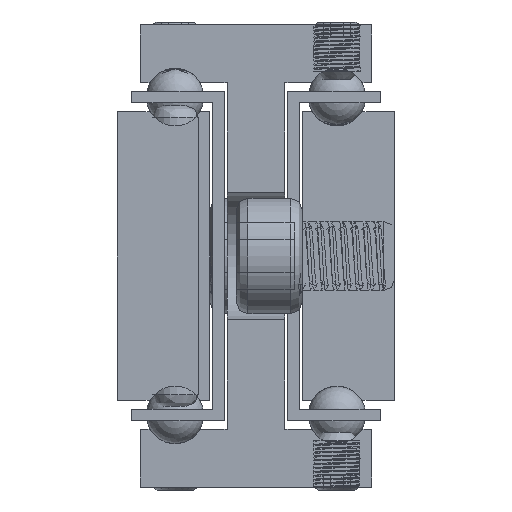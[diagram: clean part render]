
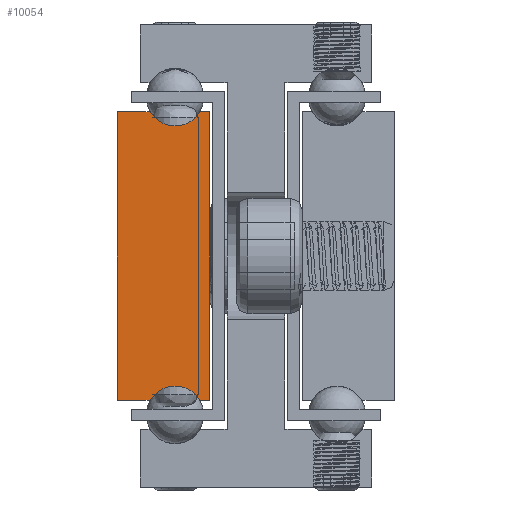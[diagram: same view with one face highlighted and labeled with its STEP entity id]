
A CAD part, front view. The second image highlights one B-rep face of the part: STEP entity #10054.
In plain terms, the highlighted planar face has unit normal (0, -1, 0).
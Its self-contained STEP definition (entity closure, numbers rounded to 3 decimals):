
#600=LINE('',#14156,#1530);
#604=LINE('',#14164,#1534);
#608=LINE('',#14176,#1538);
#611=LINE('',#14182,#1541);
#614=LINE('',#14188,#1544);
#618=LINE('',#14199,#1548);
#1530=VECTOR('',#11606,1.);
#1534=VECTOR('',#11612,1.);
#1538=VECTOR('',#11624,1.);
#1541=VECTOR('',#11629,1.);
#1544=VECTOR('',#11634,1.);
#1548=VECTOR('',#11646,1.);
#2466=PLANE('',#10784);
#3096=FACE_OUTER_BOUND('',#3732,.T.);
#3732=EDGE_LOOP('',(#7264,#7265,#7266,#7267,#7268,#7269,#7270,#7271));
#4560=CIRCLE('',#10775,2.5);
#4562=CIRCLE('',#10781,2.5);
#4810=VERTEX_POINT('',#14154);
#4811=VERTEX_POINT('',#14155);
#4814=VERTEX_POINT('',#14163);
#4816=VERTEX_POINT('',#14169);
#4818=VERTEX_POINT('',#14175);
#4820=VERTEX_POINT('',#14181);
#4822=VERTEX_POINT('',#14187);
#4824=VERTEX_POINT('',#14193);
#5848=EDGE_CURVE('',#4810,#4811,#600,.T.);
#5852=EDGE_CURVE('',#4811,#4814,#604,.T.);
#5855=EDGE_CURVE('',#4814,#4816,#4560,.T.);
#5858=EDGE_CURVE('',#4816,#4818,#608,.T.);
#5861=EDGE_CURVE('',#4818,#4820,#611,.T.);
#5864=EDGE_CURVE('',#4820,#4822,#614,.T.);
#5867=EDGE_CURVE('',#4822,#4824,#4562,.T.);
#5870=EDGE_CURVE('',#4824,#4810,#618,.T.);
#7264=ORIENTED_EDGE('',*,*,#5870,.T.);
#7265=ORIENTED_EDGE('',*,*,#5848,.T.);
#7266=ORIENTED_EDGE('',*,*,#5852,.T.);
#7267=ORIENTED_EDGE('',*,*,#5855,.T.);
#7268=ORIENTED_EDGE('',*,*,#5858,.T.);
#7269=ORIENTED_EDGE('',*,*,#5861,.T.);
#7270=ORIENTED_EDGE('',*,*,#5864,.T.);
#7271=ORIENTED_EDGE('',*,*,#5867,.T.);
#10054=ADVANCED_FACE('',(#3096),#2466,.F.);
#10775=AXIS2_PLACEMENT_3D('',#14170,#11617,#11618);
#10781=AXIS2_PLACEMENT_3D('',#14194,#11639,#11640);
#10784=AXIS2_PLACEMENT_3D('',#14201,#11648,#11649);
#11606=DIRECTION('',(0.,0.,-1.));
#11612=DIRECTION('',(1.,0.,0.));
#11617=DIRECTION('center_axis',(0.,1.,0.));
#11618=DIRECTION('ref_axis',(-0.866,0.,0.5));
#11624=DIRECTION('',(1.,0.,0.));
#11629=DIRECTION('',(0.,0.,1.));
#11634=DIRECTION('',(-1.,0.,0.));
#11639=DIRECTION('center_axis',(0.,1.,0.));
#11640=DIRECTION('ref_axis',(0.866,0.,-0.5));
#11646=DIRECTION('',(-1.,0.,0.));
#11648=DIRECTION('center_axis',(0.,1.,0.));
#11649=DIRECTION('ref_axis',(1.,0.,0.));
#14154=CARTESIAN_POINT('',(2123.867,1436.493,387.748));
#14155=CARTESIAN_POINT('',(2123.867,1436.493,362.748));
#14156=CARTESIAN_POINT('',(2123.867,1436.493,387.748));
#14163=CARTESIAN_POINT('',(2126.702,1436.493,362.748));
#14164=CARTESIAN_POINT('',(2123.867,1436.493,362.748));
#14169=CARTESIAN_POINT('',(2131.032,1436.493,362.748));
#14170=CARTESIAN_POINT('Origin',(2128.867,1436.493,361.498));
#14175=CARTESIAN_POINT('',(2131.867,1436.493,362.748));
#14176=CARTESIAN_POINT('',(2131.032,1436.493,362.748));
#14181=CARTESIAN_POINT('',(2131.867,1436.493,387.748));
#14182=CARTESIAN_POINT('',(2131.867,1436.493,362.748));
#14187=CARTESIAN_POINT('',(2131.032,1436.493,387.748));
#14188=CARTESIAN_POINT('',(2131.867,1436.493,387.748));
#14193=CARTESIAN_POINT('',(2126.702,1436.493,387.748));
#14194=CARTESIAN_POINT('Origin',(2128.867,1436.493,388.998));
#14199=CARTESIAN_POINT('',(2126.702,1436.493,387.748));
#14201=CARTESIAN_POINT('Origin',(2127.854,1436.493,375.248));
